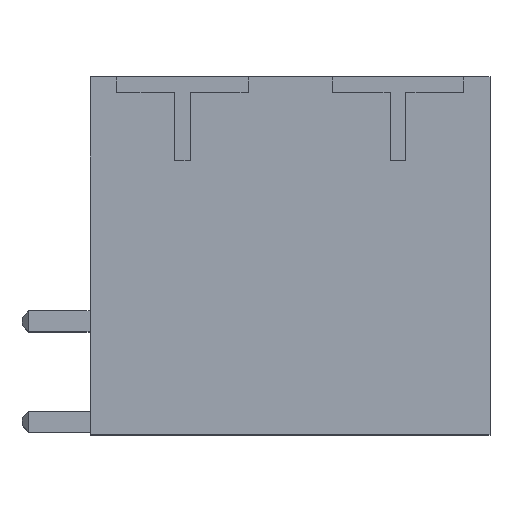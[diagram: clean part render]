
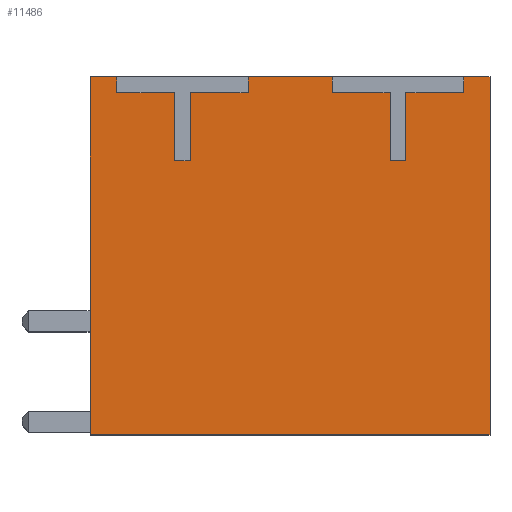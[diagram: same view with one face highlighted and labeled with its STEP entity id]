
A CAD part, top view. The second image highlights one B-rep face of the part: STEP entity #11486.
In plain terms, the highlighted planar face has unit normal (0, 0, 1).
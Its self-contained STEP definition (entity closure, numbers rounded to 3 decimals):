
#21=DIRECTION('',(0.,1.,0.));
#22=VECTOR('',#21,13.61);
#23=CARTESIAN_POINT('',(15.2,0.,-17.625));
#24=LINE('',#23,#22);
#1611=DIRECTION('',(0.,1.,0.));
#1612=VECTOR('',#1611,0.6);
#1613=CARTESIAN_POINT('',(6.,13.01,-17.625));
#1614=LINE('',#1613,#1612);
#1615=DIRECTION('',(1.,0.,0.));
#1616=VECTOR('',#1615,3.2);
#1617=CARTESIAN_POINT('',(6.,13.61,-17.625));
#1618=LINE('',#1617,#1616);
#1619=DIRECTION('',(1.,0.,0.));
#1620=VECTOR('',#1619,2.2);
#1621=CARTESIAN_POINT('',(9.2,13.01,-17.625));
#1622=LINE('',#1621,#1620);
#1623=DIRECTION('',(0.,-1.,0.));
#1624=VECTOR('',#1623,2.6);
#1625=CARTESIAN_POINT('',(11.4,13.01,-17.625));
#1626=LINE('',#1625,#1624);
#1627=DIRECTION('',(1.,0.,0.));
#1628=VECTOR('',#1627,0.6);
#1629=CARTESIAN_POINT('',(11.4,10.41,-17.625));
#1630=LINE('',#1629,#1628);
#1631=DIRECTION('',(0.,1.,0.));
#1632=VECTOR('',#1631,2.6);
#1633=CARTESIAN_POINT('',(12.,10.41,-17.625));
#1634=LINE('',#1633,#1632);
#1635=DIRECTION('',(1.,0.,0.));
#1636=VECTOR('',#1635,2.2);
#1637=CARTESIAN_POINT('',(12.,13.01,-17.625));
#1638=LINE('',#1637,#1636);
#1639=DIRECTION('',(0.,1.,0.));
#1640=VECTOR('',#1639,0.6);
#1641=CARTESIAN_POINT('',(14.2,13.01,-17.625));
#1642=LINE('',#1641,#1640);
#1643=DIRECTION('',(1.,0.,0.));
#1644=VECTOR('',#1643,1.);
#1645=CARTESIAN_POINT('',(14.2,13.61,-17.625));
#1646=LINE('',#1645,#1644);
#1647=DIRECTION('',(1.,0.,0.));
#1648=VECTOR('',#1647,1.);
#1649=CARTESIAN_POINT('',(0.,13.61,-17.625));
#1650=LINE('',#1649,#1648);
#1651=DIRECTION('',(1.,0.,0.));
#1652=VECTOR('',#1651,2.2);
#1653=CARTESIAN_POINT('',(1.,13.01,-17.625));
#1654=LINE('',#1653,#1652);
#1655=DIRECTION('',(0.,-1.,0.));
#1656=VECTOR('',#1655,2.6);
#1657=CARTESIAN_POINT('',(3.2,13.01,-17.625));
#1658=LINE('',#1657,#1656);
#1659=DIRECTION('',(1.,0.,0.));
#1660=VECTOR('',#1659,0.6);
#1661=CARTESIAN_POINT('',(3.2,10.41,-17.625));
#1662=LINE('',#1661,#1660);
#1663=DIRECTION('',(0.,1.,0.));
#1664=VECTOR('',#1663,2.6);
#1665=CARTESIAN_POINT('',(3.8,10.41,-17.625));
#1666=LINE('',#1665,#1664);
#1667=DIRECTION('',(1.,0.,0.));
#1668=VECTOR('',#1667,2.2);
#1669=CARTESIAN_POINT('',(3.8,13.01,-17.625));
#1670=LINE('',#1669,#1668);
#1727=DIRECTION('',(0.,1.,0.));
#1728=VECTOR('',#1727,0.6);
#1729=CARTESIAN_POINT('',(1.,13.01,-17.625));
#1730=LINE('',#1729,#1728);
#1735=DIRECTION('',(0.,1.,0.));
#1736=VECTOR('',#1735,0.6);
#1737=CARTESIAN_POINT('',(9.2,13.01,-17.625));
#1738=LINE('',#1737,#1736);
#1791=DIRECTION('',(1.,0.,0.));
#1792=VECTOR('',#1791,15.2);
#1793=CARTESIAN_POINT('',(0.,0.,-17.625));
#1794=LINE('',#1793,#1792);
#2631=DIRECTION('',(0.,-1.,0.));
#2632=VECTOR('',#2631,13.61);
#2633=CARTESIAN_POINT('',(0.,13.61,-17.625));
#2634=LINE('',#2633,#2632);
#6660=CARTESIAN_POINT('',(15.2,0.,-17.625));
#6661=VERTEX_POINT('',#6660);
#6662=CARTESIAN_POINT('',(15.2,13.61,-17.625));
#6663=VERTEX_POINT('',#6662);
#6794=CARTESIAN_POINT('',(14.2,13.61,-17.625));
#6795=VERTEX_POINT('',#6794);
#6800=CARTESIAN_POINT('',(9.2,13.61,-17.625));
#6801=VERTEX_POINT('',#6800);
#6802=CARTESIAN_POINT('',(6.,13.61,-17.625));
#6803=VERTEX_POINT('',#6802);
#6808=CARTESIAN_POINT('',(1.,13.61,-17.625));
#6809=VERTEX_POINT('',#6808);
#6810=CARTESIAN_POINT('',(0.,13.61,-17.625));
#6811=VERTEX_POINT('',#6810);
#7190=CARTESIAN_POINT('',(6.,13.01,-17.625));
#7191=VERTEX_POINT('',#7190);
#7192=CARTESIAN_POINT('',(9.2,13.01,-17.625));
#7193=VERTEX_POINT('',#7192);
#7194=CARTESIAN_POINT('',(11.4,13.01,-17.625));
#7195=VERTEX_POINT('',#7194);
#7196=CARTESIAN_POINT('',(11.4,10.41,-17.625));
#7197=VERTEX_POINT('',#7196);
#7198=CARTESIAN_POINT('',(12.,10.41,-17.625));
#7199=VERTEX_POINT('',#7198);
#7200=CARTESIAN_POINT('',(12.,13.01,-17.625));
#7201=VERTEX_POINT('',#7200);
#7202=CARTESIAN_POINT('',(14.2,13.01,-17.625));
#7203=VERTEX_POINT('',#7202);
#7204=CARTESIAN_POINT('',(0.,0.,-17.625));
#7205=VERTEX_POINT('',#7204);
#7206=CARTESIAN_POINT('',(1.,13.01,-17.625));
#7207=VERTEX_POINT('',#7206);
#7208=CARTESIAN_POINT('',(3.2,13.01,-17.625));
#7209=VERTEX_POINT('',#7208);
#7210=CARTESIAN_POINT('',(3.2,10.41,-17.625));
#7211=VERTEX_POINT('',#7210);
#7212=CARTESIAN_POINT('',(3.8,10.41,-17.625));
#7213=VERTEX_POINT('',#7212);
#7214=CARTESIAN_POINT('',(3.8,13.01,-17.625));
#7215=VERTEX_POINT('',#7214);
#11443=CARTESIAN_POINT('',(15.2,0.31,-17.625));
#11444=DIRECTION('',(0.,0.,1.));
#11445=DIRECTION('',(-1.,0.,0.));
#11446=AXIS2_PLACEMENT_3D('',#11443,#11444,#11445);
#11447=PLANE('',#11446);
#11449=ORIENTED_EDGE('',*,*,#11448,.T.);
#11450=ORIENTED_EDGE('',*,*,#11032,.T.);
#11452=ORIENTED_EDGE('',*,*,#11451,.F.);
#11454=ORIENTED_EDGE('',*,*,#11453,.T.);
#11456=ORIENTED_EDGE('',*,*,#11455,.T.);
#11458=ORIENTED_EDGE('',*,*,#11457,.T.);
#11460=ORIENTED_EDGE('',*,*,#11459,.T.);
#11462=ORIENTED_EDGE('',*,*,#11461,.T.);
#11464=ORIENTED_EDGE('',*,*,#11463,.T.);
#11465=ORIENTED_EDGE('',*,*,#11024,.T.);
#11466=ORIENTED_EDGE('',*,*,#8769,.F.);
#11468=ORIENTED_EDGE('',*,*,#11467,.F.);
#11470=ORIENTED_EDGE('',*,*,#11469,.F.);
#11471=ORIENTED_EDGE('',*,*,#11040,.T.);
#11473=ORIENTED_EDGE('',*,*,#11472,.F.);
#11475=ORIENTED_EDGE('',*,*,#11474,.T.);
#11477=ORIENTED_EDGE('',*,*,#11476,.T.);
#11479=ORIENTED_EDGE('',*,*,#11478,.T.);
#11481=ORIENTED_EDGE('',*,*,#11480,.T.);
#11483=ORIENTED_EDGE('',*,*,#11482,.T.);
#11484=EDGE_LOOP('',(#11449,#11450,#11452,#11454,#11456,#11458,#11460,#11462,
#11464,#11465,#11466,#11468,#11470,#11471,#11473,#11475,#11477,#11479,#11481,
#11483));
#11485=FACE_OUTER_BOUND('',#11484,.F.);
#11486=ADVANCED_FACE('',(#11485),#11447,.T.);
#8769=EDGE_CURVE('',#6661,#6663,#24,.T.);
#11024=EDGE_CURVE('',#6795,#6663,#1646,.T.);
#11032=EDGE_CURVE('',#6803,#6801,#1618,.T.);
#11040=EDGE_CURVE('',#6811,#6809,#1650,.T.);
#11448=EDGE_CURVE('',#7191,#6803,#1614,.T.);
#11451=EDGE_CURVE('',#7193,#6801,#1738,.T.);
#11453=EDGE_CURVE('',#7193,#7195,#1622,.T.);
#11455=EDGE_CURVE('',#7195,#7197,#1626,.T.);
#11457=EDGE_CURVE('',#7197,#7199,#1630,.T.);
#11459=EDGE_CURVE('',#7199,#7201,#1634,.T.);
#11461=EDGE_CURVE('',#7201,#7203,#1638,.T.);
#11463=EDGE_CURVE('',#7203,#6795,#1642,.T.);
#11467=EDGE_CURVE('',#7205,#6661,#1794,.T.);
#11469=EDGE_CURVE('',#6811,#7205,#2634,.T.);
#11472=EDGE_CURVE('',#7207,#6809,#1730,.T.);
#11474=EDGE_CURVE('',#7207,#7209,#1654,.T.);
#11476=EDGE_CURVE('',#7209,#7211,#1658,.T.);
#11478=EDGE_CURVE('',#7211,#7213,#1662,.T.);
#11480=EDGE_CURVE('',#7213,#7215,#1666,.T.);
#11482=EDGE_CURVE('',#7215,#7191,#1670,.T.);
